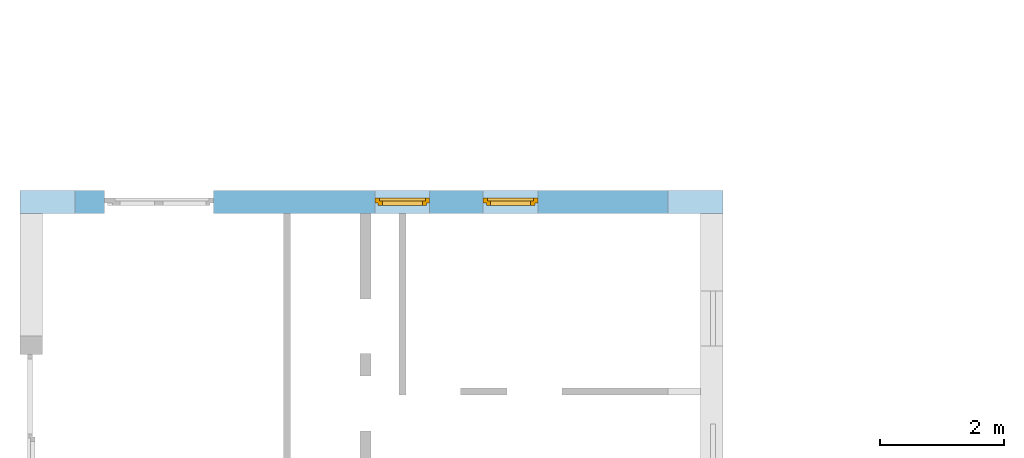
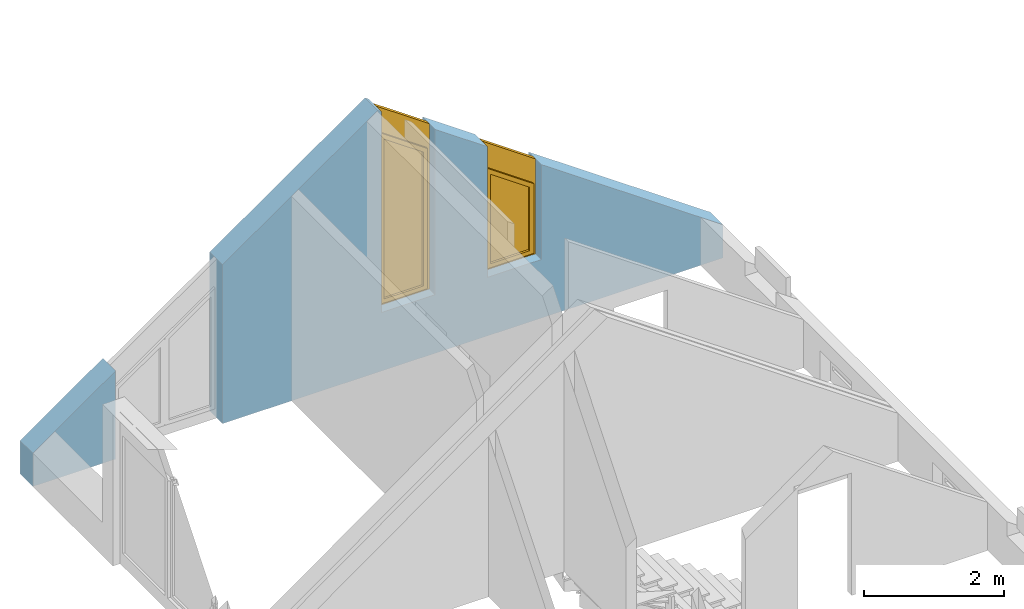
# One storey, part 11 of 23: 2 windows, 3 openings, plus 1 element that does not belong to this part.
"""IFC2X3 building model written with IfcOpenShell, lengths in millimetres."""

import ifcopenshell
import ifcopenshell.guid

model = None  # the IFC model being written
_history = None  # IfcOwnerHistory: only IFC2X3 demands one
_inside = {}  # id of a spatial element -> (the spatial element, [elements in it])
_under = {}  # id of a project, library or spatial element -> (it, [spatial elements below it])
_declared = {}  # id of a project -> (the project, [libraries it declares])
_typed = {}  # id of a type object -> (the type object, [elements of that type])
_made_of = {}  # id of a material, layer set ... -> (it, [elements and type objects made of it])


def new_model(schema):
    """Start an empty IFC model of exactly this schema.

    Asked for "IFC4X3", IfcOpenShell would pick the latest addendum, in which some entities
    have other attributes; the version numbers below select the first issue.
    IFC2X3 requires an IfcOwnerHistory on every rooted entity: one is made here for all.
    """
    global model, _history
    if schema == "IFC4X3":
        model = ifcopenshell.file(schema_version=(4, 3, 0, 0))
    else:
        model = ifcopenshell.file(schema=schema)
    _inside.clear()
    _under.clear()
    _declared.clear()
    _typed.clear()
    _made_of.clear()
    _history = None
    if model.schema == "IFC2X3":
        org = make("IfcOrganization", Name="unknown")
        user = make(
            "IfcPersonAndOrganization",
            ThePerson=make("IfcPerson", FamilyName="unknown"),
            TheOrganization=org,
        )
        app = make(
            "IfcApplication",
            ApplicationDeveloper=org,
            Version="unknown",
            ApplicationFullName="unknown",
            ApplicationIdentifier="unknown",
        )
        _history = make(
            "IfcOwnerHistory",
            OwningUser=user,
            OwningApplication=app,
            ChangeAction="ADDED",
            CreationDate=0,
        )
    return model


def make(cls, **values):
    """One entity of the class cls with the attributes given. An attribute that is None is left unset."""
    return model.create_entity(
        cls, **{name: value for name, value in values.items() if value is not None}
    )


def entity(cls, *values):
    """Any entity or typed value of the class cls, its attributes in the order of the schema. None: left unset."""
    e = model.create_entity(cls)
    for i, value in enumerate(values):
        if value is not None:
            e[i] = value
    return e


def rooted(cls, **values):
    """An entity with a GlobalId (a new one), such as an element, a storey or a relation."""
    return make(cls, GlobalId=ifcopenshell.guid.new(), OwnerHistory=_history, **values)


def si_unit(unit_type, name, prefix=None):
    """IfcSIUnit, for example si_unit("LENGTHUNIT", "METRE", prefix="MILLI")."""
    return make("IfcSIUnit", UnitType=unit_type, Prefix=prefix, Name=name)


def converted_unit(unit_type, name, factor, base, dimensions=None, offset=None):
    """IfcConversionBasedUnit, such as the inch: factor (a typed value) times the base unit."""
    return make(
        "IfcConversionBasedUnit"
        if offset is None
        else "IfcConversionBasedUnitWithOffset",
        ConversionOffset=offset,
        Dimensions=None
        if dimensions is None
        else entity("IfcDimensionalExponents", *dimensions),
        UnitType=unit_type,
        Name=name,
        ConversionFactor=make(
            "IfcMeasureWithUnit", ValueComponent=factor, UnitComponent=base
        ),
    )


def assignment(units):
    """IfcUnitAssignment: the units of a project."""
    return None if units is None else make("IfcUnitAssignment", Units=units)


def point(xyz):
    """IfcCartesianPoint."""
    return None if xyz is None else make("IfcCartesianPoint", Coordinates=xyz)


def direction(xyz):
    """IfcDirection."""
    return None if xyz is None else make("IfcDirection", DirectionRatios=xyz)


def frame(location, z_axis=None, x_axis=None):
    """IfcAxis2Placement3D, a coordinate frame: its origin and axes. An axis left out is left unset."""
    return make(
        "IfcAxis2Placement3D",
        Location=point(location),
        Axis=direction(z_axis),
        RefDirection=direction(x_axis),
    )


def frame_2d(location, x_axis=None):
    """IfcAxis2Placement2D, a coordinate frame in the plane: its origin and x axis."""
    return make(
        "IfcAxis2Placement2D", Location=point(location), RefDirection=direction(x_axis)
    )


def origin():
    """The frame at (0, 0, 0) with its axes left unset."""
    return frame((0.0, 0.0, 0.0))


def origin_with_axes():
    """The frame at (0, 0, 0) with the z axis (0, 0, 1) and the x axis (1, 0, 0) written out."""
    return frame((0.0, 0.0, 0.0), z_axis=(0.0, 0.0, 1.0), x_axis=(1.0, 0.0, 0.0))


def place(relative_to, where):
    """IfcLocalPlacement: puts the frame where relative to a parent placement (None: the world)."""
    return make(
        "IfcLocalPlacement", PlacementRelTo=relative_to, RelativePlacement=where
    )


def context(
    kind, dimensions, precision=None, world=None, true_north=None, identifier=None
):
    """IfcGeometricRepresentationContext, for example the 3D "Model" context."""
    return make(
        "IfcGeometricRepresentationContext",
        ContextIdentifier=identifier,
        ContextType=kind,
        CoordinateSpaceDimension=dimensions,
        Precision=precision,
        WorldCoordinateSystem=world,
        TrueNorth=true_north,
    )


def subcontext(parent, identifier, kind, view, scale=None):
    """IfcGeometricRepresentationSubContext, for example "Body" below "Model"."""
    return make(
        "IfcGeometricRepresentationSubContext",
        ContextIdentifier=identifier,
        ContextType=kind,
        ParentContext=parent,
        TargetScale=scale,
        TargetView=view,
    )


def project(units=None, contexts=None):
    """IfcProject with its units and contexts."""
    return rooted(
        "IfcProject",
        Name="project",
        RepresentationContexts=contexts,
        UnitsInContext=assignment(units),
    )


def spatial(cls, under=None, at=None, **own):
    """A site, building, storey or space (cls), placed at a placement, below another one or the project."""
    s = rooted(cls, ObjectPlacement=at, **own)
    if under is not None:
        _under.setdefault(under.id(), (under, []))[1].append(s)
    return s


def polyline(points):
    """IfcPolyline through the points."""
    return make("IfcPolyline", Points=[point(p) for p in points])


def profile(cls, at=None, kind="AREA", **sizes):
    """A parametric profile (cls). Its sizes go by their IFC names, for example OverallWidth=200.0."""
    return make(cls, ProfileType=kind, Position=at, **sizes)


def rectangle(**sizes):
    """IfcRectangleProfileDef."""
    return profile("IfcRectangleProfileDef", **sizes)


def outline(outer, holes=None, kind="AREA"):
    """IfcArbitraryClosedProfileDef: a profile drawn as a closed curve; with holes, ...WithVoids."""
    if holes is None:
        return make("IfcArbitraryClosedProfileDef", ProfileType=kind, OuterCurve=outer)
    return make(
        "IfcArbitraryProfileDefWithVoids",
        ProfileType=kind,
        OuterCurve=outer,
        InnerCurves=holes,
    )


def extrude(swept, where, along, depth):
    """IfcExtrudedAreaSolid: the profile swept, set in the frame where, extruded along a direction by depth."""
    return make(
        "IfcExtrudedAreaSolid",
        SweptArea=swept,
        Position=where,
        ExtrudedDirection=direction(along),
        Depth=depth,
    )


def clip(a, b, op="DIFFERENCE"):
    """IfcBooleanClippingResult: the solid a cut by the half space b."""
    return make(
        "IfcBooleanClippingResult", Operator=op, FirstOperand=a, SecondOperand=b
    )


def bounded_halfspace(plane, agree, where, boundary):
    """IfcPolygonalBoundedHalfSpace: a half space limited to a polygon's prism."""
    return make(
        "IfcPolygonalBoundedHalfSpace",
        BaseSurface=make("IfcPlane", Position=plane),
        AgreementFlag=agree,
        Position=where,
        PolygonalBoundary=boundary,
    )


def faces_of(points, faces, orient=None, outer=None):
    """IfcFace entities. A face is a list of loops; a loop is a list of indices into points, from 0.

    orient and outer hold one flag for each loop. By default every Orientation is true, the
    first loop of a face is its IfcFaceOuterBound and the others are IfcFaceBound.
    """
    made = []
    for i, loops in enumerate(faces):
        bounds = []
        for j, loop in enumerate(loops):
            is_outer = j == 0 if outer is None else outer[i][j]
            bounds.append(
                make(
                    "IfcFaceOuterBound" if is_outer else "IfcFaceBound",
                    Bound=make("IfcPolyLoop", Polygon=[points[k] for k in loop]),
                    Orientation=True if orient is None else orient[i][j],
                )
            )
        made.append(make("IfcFace", Bounds=bounds))
    return made


def faceted_brep(points, faces, orient=None, outer=None, voids=None):
    """IfcFacetedBrep: a solid bounded by flat faces; with voids (closed shells), ...WithVoids."""
    shared = [point(p) for p in points]
    hull = make("IfcClosedShell", CfsFaces=faces_of(shared, faces, orient, outer))
    if voids is None:
        return make("IfcFacetedBrep", Outer=hull)
    return make(
        "IfcFacetedBrepWithVoids",
        Outer=hull,
        Voids=[
            make(cls, CfsFaces=faces_of(shared, fs, o, b)) for cls, fs, o, b in voids
        ],
    )


def shape(context_of_items, identifier, shape_type, items):
    """IfcShapeRepresentation: the items that make up one representation, for example the "Body"."""
    return make(
        "IfcShapeRepresentation",
        ContextOfItems=context_of_items,
        RepresentationIdentifier=identifier,
        RepresentationType=shape_type,
        Items=items,
    )


def material(Name=None, Category=None):
    """IfcMaterial."""
    return make("IfcMaterial", Name=Name, Category=Category)


def layer(
    of_material, thickness, ventilated=None, Name=None, Category=None, Priority=None
):
    """IfcMaterialLayer: one layer of a wall or slab, of a material (None: an air gap)."""
    return make(
        "IfcMaterialLayer",
        Material=of_material,
        LayerThickness=thickness,
        IsVentilated=ventilated,
        Name=Name,
        Category=Category,
        Priority=Priority,
    )


def layer_set(layers, Name=None):
    """IfcMaterialLayerSet."""
    return make("IfcMaterialLayerSet", MaterialLayers=layers, LayerSetName=Name)


def layer_usage(for_layer_set, set_direction, sense, offset, extent=None):
    """IfcMaterialLayerSetUsage: how a layer set lies in its element."""
    return make(
        "IfcMaterialLayerSetUsage",
        ForLayerSet=for_layer_set,
        LayerSetDirection=set_direction,
        DirectionSense=sense,
        OffsetFromReferenceLine=offset,
        ReferenceExtent=extent,
    )


def made_of(thing, what):
    """Note that an element or type object is made of a material, layer set ...; save() writes the relation."""
    if what is not None:
        _made_of.setdefault(what.id(), (what, []))[1].append(thing)
    return thing


def type_object(cls, material=None, **own):
    """A type object (cls), such as IfcWallType, which elements share."""
    return made_of(rooted(cls, **own), material)


def element(
    cls,
    number,
    at=None,
    inside=None,
    cuts=None,
    type_object=None,
    material=None,
    context=None,
    identifier="Body",
    shape_type=None,
    held_by="IfcProductDefinitionShape",
    body=None,
    shapes=None,
    **own,
):
    """One element of the class cls, such as IfcWall. Its Tag is "e" and its number.

    at: its placement. inside: the storey or other place that contains it. cuts: it is an
    opening in that element (IfcRelVoidsElement). A single representation is given by context,
    identifier, shape_type and body (its items); several are given by shapes. held_by: the class
    of the entity that holds the representations. save() writes the other relations.
    """
    e = rooted(cls, Tag="e%d" % number, ObjectPlacement=at, **own)
    if body is not None:
        shapes = [shape(context, identifier, shape_type, body)]
    if shapes is not None:
        e.Representation = make(held_by, Representations=shapes)
    if inside is not None:
        _inside.setdefault(inside.id(), (inside, []))[1].append(e)
    if cuts is not None:
        rooted(
            "IfcRelVoidsElement", RelatingBuildingElement=cuts, RelatedOpeningElement=e
        )
    if type_object is not None:
        _typed.setdefault(type_object.id(), (type_object, []))[1].append(e)
    return made_of(e, material)


def fill(opening, filler):
    """IfcRelFillsElement: the door or window that sits in an opening."""
    return rooted(
        "IfcRelFillsElement",
        RelatingOpeningElement=opening,
        RelatedBuildingElement=filler,
    )


def aggregate(whole, parts):
    """IfcRelAggregates: a whole, such as a stair, and the parts it consists of."""
    return rooted("IfcRelAggregates", RelatingObject=whole, RelatedObjects=parts)


def save(model, path):
    """Write the relations noted so far, then the file.

    IfcRelAggregates (storeys below a building ...), IfcRelContainedInSpatialStructure (elements
    in a storey), IfcRelDefinesByType, IfcRelAssociatesMaterial and IfcRelDeclares: one each for
    every whole, place, type object, material and project.
    """
    for whole, parts in _under.values():
        aggregate(whole, parts)
    for where, things in _inside.values():
        rooted(
            "IfcRelContainedInSpatialStructure",
            RelatedElements=things,
            RelatingStructure=where,
        )
    for kind, things in _typed.values():
        rooted("IfcRelDefinesByType", RelatedObjects=things, RelatingType=kind)
    for what, things in _made_of.values():
        rooted("IfcRelAssociatesMaterial", RelatedObjects=things, RelatingMaterial=what)
    for by, libraries in _declared.values():
        rooted("IfcRelDeclares", RelatingContext=by, RelatedDefinitions=libraries)
    model.write(path)


model = new_model("IFC2X3")

# Units and contexts
model_context = context("Model", 3, precision=1e-05, world=origin())
body_context = subcontext(model_context, "Body", "Model", "MODEL_VIEW")
ifc_project = project(units=[si_unit("LENGTHUNIT", "METRE", prefix="MILLI"), converted_unit("PLANEANGLEUNIT", "DEGREE", entity("IfcPlaneAngleMeasure", 0.0174532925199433), si_unit("PLANEANGLEUNIT", "RADIAN"), dimensions=[0, 0, 0, 0, 0, 0, 0]), si_unit("AREAUNIT", "SQUARE_METRE"), si_unit("VOLUMEUNIT", "CUBIC_METRE")], contexts=[model_context])

# Building, storey
building_placement = place(None, origin())
building = spatial("IfcBuilding", under=ifc_project, at=building_placement, Name="Gebäude", CompositionType="ELEMENT")
storey_placement = place(building_placement, frame((0.0, 0.0, 5580.0), z_axis=(0.0, 0.0, 1.0), x_axis=(1.0, 0.0, 0.0)))
storey = spatial("IfcBuildingStorey", under=building, at=storey_placement, Name="DG.- Grundriss", CompositionType="ELEMENT", Elevation=5580.0)

# Wall, openings, windows
ifc_material_1 = material(Name="Poroton")
ifc_layer = layer(ifc_material_1, 365.0000000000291)
ifc_layer_set = layer_set([ifc_layer])
ifc_layer_usage = layer_usage(ifc_layer_set, "AXIS2", "POSITIVE", 0.0)
wall_placement = place(storey_placement, frame((142357.7928067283, 136889.8877324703, 0.0), z_axis=(0.0, 0.0, 1.0), x_axis=(-1.0, 0.0, 0.0)))
wall = element("IfcWallStandardCase", 1, at=wall_placement, inside=storey, material=ifc_layer_usage, Name="<Unnamed Element>", context=body_context, shape_type="Clipping", body=[
    clip(clip(extrude(rectangle(XDim=11365.00000000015, YDim=365.0000000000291, at=frame_2d((5682.500000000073, 182.5000000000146), x_axis=(1.0, 0.0))), origin_with_axes(), (0.0, 0.0, 1.0), 4558.92933587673), bounded_halfspace(frame((5682.500000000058, 365.0000000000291, 4558.92933587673), z_axis=(0.5735764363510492, 0.0, -0.8191520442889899), x_axis=(-0.8191520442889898, 0.0, -0.5735764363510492)), True, origin(), polyline([(5682.500000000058, 365.0000000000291), (0.0, 365.0000000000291), (0.0, 0.0), (5682.500000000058, 0.0), (5682.500000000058, 365.0000000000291)]))), bounded_halfspace(frame((5682.500000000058, 365.0000000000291, 4558.92933587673), z_axis=(-0.5735764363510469, 0.0, -0.8191520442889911), x_axis=(0.0, -1.0, 0.0)), True, origin(), polyline([(5682.500000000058, 365.0000000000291), (5682.500000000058, 0.0), (11365.00000000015, 0.0), (11365.00000000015, 365.0000000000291), (5682.500000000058, 365.0000000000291)]))),
])
opening_1_placement = place(wall_placement, frame((8240.0, 0.0, 0.0), z_axis=(0.0, 1.0, 0.0), x_axis=(0.0, 0.0, 1.0)))
element("IfcOpeningElement", 2, at=opening_1_placement, cuts=wall, Name="Fensteröffnung", ObjectType="Opening", context=body_context, shape_type="SweptSolid", body=[
    extrude(outline(polyline([(0.0, 1760.0), (0.0, 0.0), (2768.148556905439, 0.0), (1535.783289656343, 1760.0), (0.0, 1760.0)])), origin_with_axes(), (0.0, 0.0, 1.0), 365.0000000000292),
])
opening_2_placement = place(wall_placement, frame((2990.0, 0.0, 1020.0), z_axis=(0.0, 1.0, 0.0), x_axis=(0.0, 0.0, 1.0)))
opening_2 = element("IfcOpeningElement", 3, at=opening_2_placement, cuts=wall, Name="Fensteröffnung", ObjectType="Opening", context=body_context, shape_type="SweptSolid", body=[
    extrude(outline(polyline([(0.0, 885.0), (0.0, 0.0), (1653.620539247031, 0.0), (2273.30421056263, 885.0), (0.0, 885.0)])), origin_with_axes(), (0.0, 0.0, 1.0), 365.0000000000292),
])
opening_3_placement = place(wall_placement, frame((4740.0, 0.0, 1020.0), z_axis=(0.0, 1.0, 0.0), x_axis=(0.0, 0.0, 1.0)))
opening_3 = element("IfcOpeningElement", 4, at=opening_3_placement, cuts=wall, Name="Fensteröffnung", ObjectType="Opening", context=body_context, shape_type="SweptSolid", body=[
    extrude(outline(polyline([(0.0, 885.0), (0.0, 0.0), (2878.983731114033, 0.0), (3498.667402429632, 885.0), (0.0, 885.0)])), origin_with_axes(), (0.0, 0.0, 1.0), 365.0000000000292),
])
ifc_material_2 = material()
window_style_1 = type_object("IfcWindowStyle", Name="Fenster", ConstructionType="NOTDEFINED", OperationType="USERDEFINED", ParameterTakesPrecedence=False, Sizeable=False)
window_1_placement = place(opening_2_placement, frame((0.0, 0.0, 0.0), z_axis=(1.0, 0.0, 0.0), x_axis=(0.0, 1.0, 0.0)))
window_1 = element("IfcWindow", 5, at=window_1_placement, inside=storey, type_object=window_style_1, material=ifc_material_2, Name="Fenster", OverallHeight=2273.30421056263, OverallWidth=885.0, context=body_context, shape_type="Brep", body=[
    faceted_brep([(885.0, 200.0000000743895, 2273.30421056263), (0.0, 200.0000000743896, 1653.620539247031), (0.0, 200.0000000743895, -2.449293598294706e-15), (885.0, 200.0000000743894, -2.449293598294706e-15), (815.0, 200.0000000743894, 70.0), (70.0, 200.0000000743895, 69.99999999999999), (69.99999999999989, 200.0000000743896, 1250.948469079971), (815.0, 200.0000000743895, 1772.60308504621), (885.0, 120.0000000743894, 2.449293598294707e-15), (0.0, 120.0000000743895, 2.449293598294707e-15), (0.0, 120.0000000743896, 1653.620539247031), (885.0, 120.0000000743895, 2273.30421056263), (815.0, 120.0000000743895, 1772.60308504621), (69.99999999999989, 120.0000000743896, 1250.948469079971), (70.0, 120.0000000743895, 69.99999999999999), (815.0, 120.0000000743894, 70.0), (885.0, 200.0000000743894, -2.449293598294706e-15), (885.0, 120.0000000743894, 2.449293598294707e-15), (885.0, 120.0000000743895, 2273.30421056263), (885.0, 200.0000000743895, 2273.30421056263), (0.0, 200.0000000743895, -2.449293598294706e-15), (0.0, 120.0000000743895, 2.449293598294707e-15), (885.0, 120.0000000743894, 2.449293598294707e-15), (885.0, 200.0000000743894, -2.449293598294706e-15), (0.0, 200.0000000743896, 1653.620539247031), (0.0, 120.0000000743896, 1653.620539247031), (0.0, 120.0000000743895, 2.449293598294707e-15), (0.0, 200.0000000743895, -2.449293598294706e-15), (885.0, 200.0000000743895, 2273.30421056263), (885.0, 120.0000000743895, 2273.30421056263), (0.0, 120.0000000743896, 1653.620539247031), (0.0, 200.0000000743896, 1653.620539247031), (815.0, 200.0000000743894, 70.0), (815.0, 200.0000000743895, 1772.60308504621), (815.0, 120.0000000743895, 1772.60308504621), (815.0, 120.0000000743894, 70.0), (70.0, 200.0000000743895, 69.99999999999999), (815.0, 200.0000000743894, 70.0), (815.0, 120.0000000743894, 70.0), (70.0, 120.0000000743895, 69.99999999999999), (69.99999999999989, 200.0000000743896, 1250.948469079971), (70.0, 200.0000000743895, 69.99999999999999), (70.0, 120.0000000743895, 69.99999999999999), (69.99999999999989, 120.0000000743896, 1250.948469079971), (815.0, 200.0000000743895, 1772.60308504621), (69.99999999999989, 200.0000000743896, 1250.948469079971), (69.99999999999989, 120.0000000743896, 1250.948469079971), (815.0, 120.0000000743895, 1772.60308504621)], [[[0, 1, 2, 3], [4, 5, 6, 7]], [[8, 9, 10, 11], [12, 13, 14, 15]], [[16, 17, 18, 19]], [[20, 21, 22, 23]], [[24, 25, 26, 27]], [[28, 29, 30, 31]], [[32, 33, 34, 35]], [[36, 37, 38, 39]], [[40, 41, 42, 43]], [[44, 45, 46, 47]]], orient=[[False, False], [False, False], [False], [False], [False], [False], [False], [False], [False], [False]]),
    faceted_brep([(815.0, 240.0000000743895, 1772.60308504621), (69.99999999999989, 240.0000000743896, 1250.948469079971), (70.0, 240.0000000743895, 69.99999999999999), (815.0, 240.0000000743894, 70.0), (765.0, 240.0000000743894, 120.0), (120.0, 240.0000000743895, 120.0), (119.9999999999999, 240.0000000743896, 1224.920116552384), (765.0, 240.0000000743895, 1676.553978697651), (815.0, 170.0000000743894, 70.0), (70.0, 170.0000000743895, 69.99999999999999), (69.99999999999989, 170.0000000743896, 1250.948469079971), (815.0, 170.0000000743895, 1772.60308504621), (765.0, 170.0000000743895, 1676.553978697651), (119.9999999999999, 170.0000000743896, 1224.920116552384), (120.0, 170.0000000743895, 120.0), (765.0, 170.0000000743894, 120.0), (815.0, 240.0000000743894, 70.0), (815.0, 170.0000000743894, 70.0), (815.0, 170.0000000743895, 1772.60308504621), (815.0, 240.0000000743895, 1772.60308504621), (70.0, 240.0000000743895, 69.99999999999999), (70.0, 170.0000000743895, 69.99999999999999), (815.0, 170.0000000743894, 70.0), (815.0, 240.0000000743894, 70.0), (69.99999999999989, 240.0000000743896, 1250.948469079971), (69.99999999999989, 170.0000000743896, 1250.948469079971), (70.0, 170.0000000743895, 69.99999999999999), (70.0, 240.0000000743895, 69.99999999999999), (815.0, 240.0000000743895, 1772.60308504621), (815.0, 170.0000000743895, 1772.60308504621), (69.99999999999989, 170.0000000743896, 1250.948469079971), (69.99999999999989, 240.0000000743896, 1250.948469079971), (765.0, 240.0000000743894, 120.0), (765.0, 240.0000000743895, 1676.553978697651), (765.0, 170.0000000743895, 1676.553978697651), (765.0, 170.0000000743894, 120.0), (120.0, 240.0000000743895, 120.0), (765.0, 240.0000000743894, 120.0), (765.0, 170.0000000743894, 120.0), (120.0, 170.0000000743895, 120.0), (119.9999999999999, 240.0000000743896, 1224.920116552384), (120.0, 240.0000000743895, 120.0), (120.0, 170.0000000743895, 120.0), (119.9999999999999, 170.0000000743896, 1224.920116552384), (765.0, 240.0000000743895, 1676.553978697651), (119.9999999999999, 240.0000000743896, 1224.920116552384), (119.9999999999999, 170.0000000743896, 1224.920116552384), (765.0, 170.0000000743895, 1676.553978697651)], [[[0, 1, 2, 3], [4, 5, 6, 7]], [[8, 9, 10, 11], [12, 13, 14, 15]], [[16, 17, 18, 19]], [[20, 21, 22, 23]], [[24, 25, 26, 27]], [[28, 29, 30, 31]], [[32, 33, 34, 35]], [[36, 37, 38, 39]], [[40, 41, 42, 43]], [[44, 45, 46, 47]]], orient=[[False, False], [False, False], [False], [False], [False], [False], [False], [False], [False], [False]]),
    faceted_brep([(835.0, 240.0000000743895, 1811.022727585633), (49.99999999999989, 240.0000000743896, 1261.359810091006), (50.0, 240.0000000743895, 49.99999999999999), (835.0, 240.0000000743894, 50.0), (815.0, 240.0000000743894, 70.0), (70.0, 240.0000000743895, 69.99999999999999), (69.99999999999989, 240.0000000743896, 1250.948469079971), (815.0, 240.0000000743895, 1772.60308504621), (835.0, 170.0000000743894, 50.00000000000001), (50.0, 170.0000000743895, 49.99999999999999), (49.99999999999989, 170.0000000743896, 1261.359810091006), (835.0, 170.0000000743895, 1811.022727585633), (815.0, 170.0000000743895, 1772.60308504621), (69.99999999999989, 170.0000000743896, 1250.948469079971), (70.0, 170.0000000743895, 69.99999999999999), (815.0, 170.0000000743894, 70.0), (835.0, 240.0000000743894, 50.0), (835.0, 170.0000000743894, 50.00000000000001), (835.0, 170.0000000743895, 1811.022727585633), (835.0, 240.0000000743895, 1811.022727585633), (50.0, 240.0000000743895, 49.99999999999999), (50.0, 170.0000000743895, 49.99999999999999), (835.0, 170.0000000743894, 50.00000000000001), (835.0, 240.0000000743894, 50.0), (49.99999999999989, 240.0000000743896, 1261.359810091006), (49.99999999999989, 170.0000000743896, 1261.359810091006), (50.0, 170.0000000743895, 49.99999999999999), (50.0, 240.0000000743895, 49.99999999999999), (835.0, 240.0000000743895, 1811.022727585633), (835.0, 170.0000000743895, 1811.022727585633), (49.99999999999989, 170.0000000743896, 1261.359810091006), (49.99999999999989, 240.0000000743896, 1261.359810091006), (815.0, 240.0000000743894, 70.0), (815.0, 240.0000000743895, 1772.60308504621), (815.0, 170.0000000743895, 1772.60308504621), (815.0, 170.0000000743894, 70.0), (70.0, 240.0000000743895, 69.99999999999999), (815.0, 240.0000000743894, 70.0), (815.0, 170.0000000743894, 70.0), (70.0, 170.0000000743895, 69.99999999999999), (69.99999999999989, 240.0000000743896, 1250.948469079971), (70.0, 240.0000000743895, 69.99999999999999), (70.0, 170.0000000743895, 69.99999999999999), (69.99999999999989, 170.0000000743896, 1250.948469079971), (815.0, 240.0000000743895, 1772.60308504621), (69.99999999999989, 240.0000000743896, 1250.948469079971), (69.99999999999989, 170.0000000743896, 1250.948469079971), (815.0, 170.0000000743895, 1772.60308504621)], [[[0, 1, 2, 3], [4, 5, 6, 7]], [[8, 9, 10, 11], [12, 13, 14, 15]], [[16, 17, 18, 19]], [[20, 21, 22, 23]], [[24, 25, 26, 27]], [[28, 29, 30, 31]], [[32, 33, 34, 35]], [[36, 37, 38, 39]], [[40, 41, 42, 43]], [[44, 45, 46, 47]]], orient=[[False, False], [False, False], [False], [False], [False], [False], [False], [False], [False], [False]]),
    faceted_brep([(765.0, 205.0000000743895, 120.0), (765.0, 205.0000000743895, 1676.553978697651), (119.9999999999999, 205.0000000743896, 1224.920116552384), (120.0, 205.0000000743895, 120.0), (765.0, 204.0000000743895, 120.0), (120.0, 204.0000000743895, 120.0), (119.9999999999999, 204.0000000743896, 1224.920116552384), (765.0, 204.0000000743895, 1676.553978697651), (765.0, 205.0000000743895, 120.0), (765.0, 204.0000000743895, 120.0), (765.0, 204.0000000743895, 1676.553978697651), (765.0, 205.0000000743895, 1676.553978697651), (765.0, 205.0000000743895, 1676.553978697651), (765.0, 204.0000000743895, 1676.553978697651), (119.9999999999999, 204.0000000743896, 1224.920116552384), (119.9999999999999, 205.0000000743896, 1224.920116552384), (119.9999999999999, 205.0000000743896, 1224.920116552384), (119.9999999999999, 204.0000000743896, 1224.920116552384), (120.0, 204.0000000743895, 120.0), (120.0, 205.0000000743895, 120.0), (120.0, 205.0000000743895, 120.0), (120.0, 204.0000000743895, 120.0), (765.0, 204.0000000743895, 120.0), (765.0, 205.0000000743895, 120.0)], [[[0, 1, 2, 3]], [[4, 5, 6, 7]], [[8, 9, 10, 11]], [[12, 13, 14, 15]], [[16, 17, 18, 19]], [[20, 21, 22, 23]]], orient=[[False], [False], [False], [False], [False], [False]]),
])
fill(opening_2, window_1)
ifc_material_3 = material()
window_style_2 = type_object("IfcWindowStyle", Name="Fenster", ConstructionType="NOTDEFINED", OperationType="USERDEFINED", ParameterTakesPrecedence=False, Sizeable=False)
window_2_placement = place(opening_3_placement, frame((0.0, 0.0, 0.0), z_axis=(1.0, 0.0, 0.0), x_axis=(0.0, 1.0, 0.0)))
window_2 = element("IfcWindow", 6, at=window_2_placement, inside=storey, type_object=window_style_2, material=ifc_material_3, Name="Fenster", OverallHeight=3498.667402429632, OverallWidth=885.0, context=body_context, shape_type="Brep", body=[
    faceted_brep([(885.0, 200.0000000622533, 3498.667402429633), (0.0, 200.0000000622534, 2878.983731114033), (0.0, 200.0000000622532, -2.449293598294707e-15), (885.0, 200.0000000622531, -2.449293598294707e-15), (815.0, 200.0000000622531, 70.00000000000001), (70.0, 200.0000000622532, 69.99999999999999), (69.99999999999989, 200.0000000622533, 2476.311660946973), (815.0, 200.0000000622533, 2997.966276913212), (885.0, 120.0000000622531, 2.449293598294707e-15), (0.0, 120.0000000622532, 2.449293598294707e-15), (0.0, 120.0000000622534, 2878.983731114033), (885.0, 120.0000000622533, 3498.667402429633), (815.0, 120.0000000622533, 2997.966276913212), (69.99999999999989, 120.0000000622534, 2476.311660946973), (70.0, 120.0000000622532, 69.99999999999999), (815.0, 120.0000000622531, 70.00000000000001), (885.0, 200.0000000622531, -2.449293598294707e-15), (885.0, 120.0000000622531, 2.449293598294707e-15), (885.0, 120.0000000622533, 3498.667402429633), (885.0, 200.0000000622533, 3498.667402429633), (0.0, 200.0000000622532, -2.449293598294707e-15), (0.0, 120.0000000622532, 2.449293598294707e-15), (885.0, 120.0000000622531, 2.449293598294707e-15), (885.0, 200.0000000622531, -2.449293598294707e-15), (0.0, 200.0000000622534, 2878.983731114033), (0.0, 120.0000000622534, 2878.983731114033), (0.0, 120.0000000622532, 2.449293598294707e-15), (0.0, 200.0000000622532, -2.449293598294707e-15), (885.0, 200.0000000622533, 3498.667402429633), (885.0, 120.0000000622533, 3498.667402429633), (0.0, 120.0000000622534, 2878.983731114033), (0.0, 200.0000000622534, 2878.983731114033), (815.0, 200.0000000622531, 70.00000000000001), (815.0, 200.0000000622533, 2997.966276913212), (815.0, 120.0000000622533, 2997.966276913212), (815.0, 120.0000000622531, 70.00000000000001), (70.0, 200.0000000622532, 69.99999999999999), (815.0, 200.0000000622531, 70.00000000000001), (815.0, 120.0000000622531, 70.00000000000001), (70.0, 120.0000000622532, 69.99999999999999), (69.99999999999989, 200.0000000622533, 2476.311660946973), (70.0, 200.0000000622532, 69.99999999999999), (70.0, 120.0000000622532, 69.99999999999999), (69.99999999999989, 120.0000000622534, 2476.311660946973), (815.0, 200.0000000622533, 2997.966276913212), (69.99999999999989, 200.0000000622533, 2476.311660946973), (69.99999999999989, 120.0000000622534, 2476.311660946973), (815.0, 120.0000000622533, 2997.966276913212)], [[[0, 1, 2, 3], [4, 5, 6, 7]], [[8, 9, 10, 11], [12, 13, 14, 15]], [[16, 17, 18, 19]], [[20, 21, 22, 23]], [[24, 25, 26, 27]], [[28, 29, 30, 31]], [[32, 33, 34, 35]], [[36, 37, 38, 39]], [[40, 41, 42, 43]], [[44, 45, 46, 47]]], orient=[[False, False], [False, False], [False], [False], [False], [False], [False], [False], [False], [False]]),
    faceted_brep([(815.0, 240.0000000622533, 2997.966276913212), (69.99999999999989, 240.0000000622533, 2476.311660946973), (70.0, 240.0000000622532, 69.99999999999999), (815.0, 240.0000000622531, 70.00000000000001), (765.0, 240.0000000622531, 120.0), (120.0, 240.0000000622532, 120.0), (119.9999999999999, 240.0000000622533, 2450.283308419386), (765.0, 240.0000000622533, 2901.917170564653), (815.0, 170.0000000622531, 70.00000000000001), (70.0, 170.0000000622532, 69.99999999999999), (69.99999999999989, 170.0000000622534, 2476.311660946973), (815.0, 170.0000000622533, 2997.966276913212), (765.0, 170.0000000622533, 2901.917170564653), (119.9999999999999, 170.0000000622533, 2450.283308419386), (120.0, 170.0000000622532, 120.0), (765.0, 170.0000000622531, 120.0), (815.0, 240.0000000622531, 70.00000000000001), (815.0, 170.0000000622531, 70.00000000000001), (815.0, 170.0000000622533, 2997.966276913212), (815.0, 240.0000000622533, 2997.966276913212), (70.0, 240.0000000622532, 69.99999999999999), (70.0, 170.0000000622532, 69.99999999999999), (815.0, 170.0000000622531, 70.00000000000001), (815.0, 240.0000000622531, 70.00000000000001), (69.99999999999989, 240.0000000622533, 2476.311660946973), (69.99999999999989, 170.0000000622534, 2476.311660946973), (70.0, 170.0000000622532, 69.99999999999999), (70.0, 240.0000000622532, 69.99999999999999), (815.0, 240.0000000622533, 2997.966276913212), (815.0, 170.0000000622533, 2997.966276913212), (69.99999999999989, 170.0000000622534, 2476.311660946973), (69.99999999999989, 240.0000000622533, 2476.311660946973), (765.0, 240.0000000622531, 120.0), (765.0, 240.0000000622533, 2901.917170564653), (765.0, 170.0000000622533, 2901.917170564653), (765.0, 170.0000000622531, 120.0), (120.0, 240.0000000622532, 120.0), (765.0, 240.0000000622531, 120.0), (765.0, 170.0000000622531, 120.0), (120.0, 170.0000000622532, 120.0), (119.9999999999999, 240.0000000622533, 2450.283308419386), (120.0, 240.0000000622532, 120.0), (120.0, 170.0000000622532, 120.0), (119.9999999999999, 170.0000000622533, 2450.283308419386), (765.0, 240.0000000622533, 2901.917170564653), (119.9999999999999, 240.0000000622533, 2450.283308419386), (119.9999999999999, 170.0000000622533, 2450.283308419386), (765.0, 170.0000000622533, 2901.917170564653)], [[[0, 1, 2, 3], [4, 5, 6, 7]], [[8, 9, 10, 11], [12, 13, 14, 15]], [[16, 17, 18, 19]], [[20, 21, 22, 23]], [[24, 25, 26, 27]], [[28, 29, 30, 31]], [[32, 33, 34, 35]], [[36, 37, 38, 39]], [[40, 41, 42, 43]], [[44, 45, 46, 47]]], orient=[[False, False], [False, False], [False], [False], [False], [False], [False], [False], [False], [False]]),
    faceted_brep([(835.0, 240.0000000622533, 3036.385919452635), (49.99999999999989, 240.0000000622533, 2486.723001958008), (50.0, 240.0000000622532, 49.99999999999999), (835.0, 240.0000000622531, 50.00000000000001), (815.0, 240.0000000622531, 70.00000000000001), (70.0, 240.0000000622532, 69.99999999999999), (69.99999999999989, 240.0000000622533, 2476.311660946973), (815.0, 240.0000000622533, 2997.966276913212), (835.0, 170.0000000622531, 50.00000000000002), (50.0, 170.0000000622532, 50.0), (49.99999999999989, 170.0000000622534, 2486.723001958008), (835.0, 170.0000000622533, 3036.385919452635), (815.0, 170.0000000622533, 2997.966276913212), (69.99999999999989, 170.0000000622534, 2476.311660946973), (70.0, 170.0000000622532, 69.99999999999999), (815.0, 170.0000000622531, 70.00000000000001), (835.0, 240.0000000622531, 50.00000000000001), (835.0, 170.0000000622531, 50.00000000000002), (835.0, 170.0000000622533, 3036.385919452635), (835.0, 240.0000000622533, 3036.385919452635), (50.0, 240.0000000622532, 49.99999999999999), (50.0, 170.0000000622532, 50.0), (835.0, 170.0000000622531, 50.00000000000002), (835.0, 240.0000000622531, 50.00000000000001), (49.99999999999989, 240.0000000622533, 2486.723001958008), (49.99999999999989, 170.0000000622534, 2486.723001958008), (50.0, 170.0000000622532, 50.0), (50.0, 240.0000000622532, 49.99999999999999), (835.0, 240.0000000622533, 3036.385919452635), (835.0, 170.0000000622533, 3036.385919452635), (49.99999999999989, 170.0000000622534, 2486.723001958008), (49.99999999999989, 240.0000000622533, 2486.723001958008), (815.0, 240.0000000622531, 70.00000000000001), (815.0, 240.0000000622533, 2997.966276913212), (815.0, 170.0000000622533, 2997.966276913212), (815.0, 170.0000000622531, 70.00000000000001), (70.0, 240.0000000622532, 69.99999999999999), (815.0, 240.0000000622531, 70.00000000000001), (815.0, 170.0000000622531, 70.00000000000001), (70.0, 170.0000000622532, 69.99999999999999), (69.99999999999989, 240.0000000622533, 2476.311660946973), (70.0, 240.0000000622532, 69.99999999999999), (70.0, 170.0000000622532, 69.99999999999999), (69.99999999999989, 170.0000000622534, 2476.311660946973), (815.0, 240.0000000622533, 2997.966276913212), (69.99999999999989, 240.0000000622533, 2476.311660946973), (69.99999999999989, 170.0000000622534, 2476.311660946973), (815.0, 170.0000000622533, 2997.966276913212)], [[[0, 1, 2, 3], [4, 5, 6, 7]], [[8, 9, 10, 11], [12, 13, 14, 15]], [[16, 17, 18, 19]], [[20, 21, 22, 23]], [[24, 25, 26, 27]], [[28, 29, 30, 31]], [[32, 33, 34, 35]], [[36, 37, 38, 39]], [[40, 41, 42, 43]], [[44, 45, 46, 47]]], orient=[[False, False], [False, False], [False], [False], [False], [False], [False], [False], [False], [False]]),
    faceted_brep([(765.0, 205.0000000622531, 120.0), (765.0, 205.0000000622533, 2901.917170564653), (119.9999999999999, 205.0000000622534, 2450.283308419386), (120.0, 205.0000000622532, 120.0), (765.0, 204.0000000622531, 120.0), (120.0, 204.0000000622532, 120.0), (119.9999999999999, 204.0000000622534, 2450.283308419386), (765.0, 204.0000000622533, 2901.917170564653), (765.0, 205.0000000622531, 120.0), (765.0, 204.0000000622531, 120.0), (765.0, 204.0000000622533, 2901.917170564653), (765.0, 205.0000000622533, 2901.917170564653), (765.0, 205.0000000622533, 2901.917170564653), (765.0, 204.0000000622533, 2901.917170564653), (119.9999999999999, 204.0000000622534, 2450.283308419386), (119.9999999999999, 205.0000000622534, 2450.283308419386), (119.9999999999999, 205.0000000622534, 2450.283308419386), (119.9999999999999, 204.0000000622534, 2450.283308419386), (120.0, 204.0000000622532, 120.0), (120.0, 205.0000000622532, 120.0), (120.0, 205.0000000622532, 120.0), (120.0, 204.0000000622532, 120.0), (765.0, 204.0000000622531, 120.0), (765.0, 205.0000000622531, 120.0)], [[[0, 1, 2, 3]], [[4, 5, 6, 7]], [[8, 9, 10, 11]], [[12, 13, 14, 15]], [[16, 17, 18, 19]], [[20, 21, 22, 23]]], orient=[[False], [False], [False], [False], [False], [False]]),
])
fill(opening_3, window_2)

save(model, "model.ifc")
